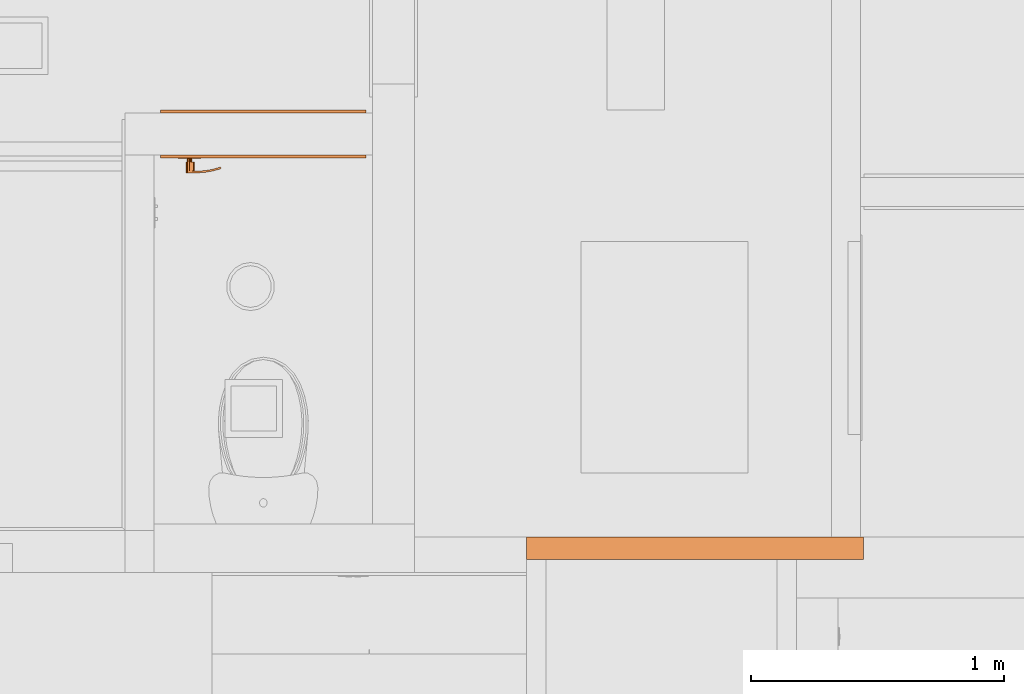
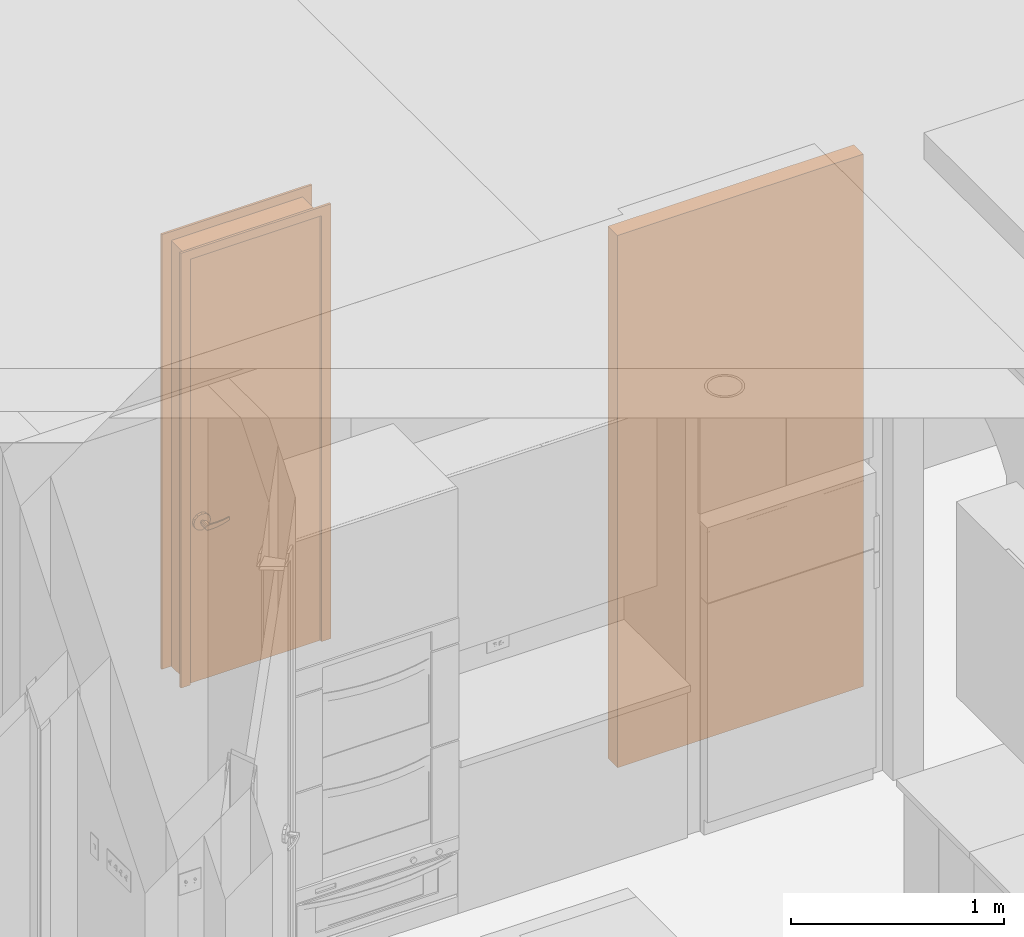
# One storey, part 92 of 103: 2 proxies.
"""IFC2X3 building model written with IfcOpenShell, lengths in inches."""

from ifc_helpers import new_model, entity, si_unit, converted_unit, derived_unit, money_unit, direction, frame, origin_with_axes, place, context, subcontext, project, spatial, open_shell, faceted_brep, surface_model, material, type_object, element, save


model = new_model("IFC2X3")

# Units and contexts
model_context = context("Model", 3, precision=0.00039370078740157, world=origin_with_axes(), true_north=direction((0.0, 1.0)))
plan_context = context("Plan", 3, precision=0.00039370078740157, world=origin_with_axes(), true_north=direction((0.0, 1.0)))
body_context = subcontext(model_context, "Body", "Model", "MODEL_VIEW")
ifc_project = project(units=[converted_unit("LENGTHUNIT", "INCH", entity("IfcPositiveLengthMeasure", 0.0254), si_unit("LENGTHUNIT", "METRE"), dimensions=[1, 0, 0, 0, 0, 0, 0]), converted_unit("AREAUNIT", "SQUARE_FOOT", entity("IfcPositiveLengthMeasure", 0.09290304), si_unit("AREAUNIT", "SQUARE_METRE"), dimensions=[2, 0, 0, 0, 0, 0, 0]), si_unit("PLANEANGLEUNIT", "RADIAN"), si_unit("SOLIDANGLEUNIT", "STERADIAN"), money_unit("USD"), converted_unit("TIMEUNIT", "Year", entity("IfcTimeMeasure", 31557600.0), si_unit("TIMEUNIT", "SECOND"), dimensions=[0, 0, 1, 0, 0, 0, 0]), si_unit("MASSUNIT", "GRAM", prefix="KILO"), si_unit("THERMODYNAMICTEMPERATUREUNIT", "DEGREE_CELSIUS"), si_unit("LUMINOUSINTENSITYUNIT", "LUMEN"), si_unit("ENERGYUNIT", "JOULE", prefix="MEGA"), derived_unit("SPECIFICHEATCAPACITYUNIT", [(si_unit("ENERGYUNIT", "JOULE"), 1), (si_unit("MASSUNIT", "GRAM", prefix="KILO"), -1), (si_unit("THERMODYNAMICTEMPERATUREUNIT", "KELVIN"), -1)])], contexts=[model_context, plan_context])

# Site, building, storey
site_placement = place(None, origin_with_axes())
site = spatial("IfcSite", under=ifc_project, at=site_placement, Name="Site", CompositionType="ELEMENT")
building_placement = place(site_placement, origin_with_axes())
building = spatial("IfcBuilding", under=site, at=building_placement, Name="Building", CompositionType="ELEMENT")
storey_placement = place(building_placement, frame((0.0, 0.0, 127.9999999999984), z_axis=(0.0, 0.0, 1.0), x_axis=(1.0, 0.0, 0.0)))
storey = spatial("IfcBuildingStorey", under=building, at=storey_placement, Name="Second Floor", CompositionType="ELEMENT", Elevation=128.0)

# Proxies
building_element_proxy_type_1 = type_object("IfcBuildingElementProxyType", Name="D1", PredefinedType="NOTDEFINED")
proxy_1_placement = place(storey_placement, frame((85.99999792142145, 460.5009092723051, 0.0), z_axis=(0.0, 0.0, 1.0), x_axis=(-1.0, 0.0, 0.0)))
element("IfcBuildingElementProxy", 1, at=proxy_1_placement, inside=storey, type_object=building_element_proxy_type_1, Name="D-08", context=body_context, shape_type="SurfaceModel", body=[
    faceted_brep([(29.99999999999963, -6.999999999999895, 0.0), (27.99999999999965, -6.999999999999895, 0.0), (27.99999999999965, -6.499999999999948, 0.0), (29.99999999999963, -6.499999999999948, 0.0), (29.99999999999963, -6.999999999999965, 97.99999999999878), (27.99999999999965, -6.999999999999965, 95.9999999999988), (27.99999999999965, -6.499999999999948, 95.9999999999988), (29.99999999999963, -6.499999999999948, 97.99999999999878)], [[[0, 1, 2, 3]], [[0, 4, 5, 1]], [[1, 5, 6, 2]], [[3, 2, 6, 7]], [[4, 0, 3, 7]], [[5, 4, 7, 6]]]),
    faceted_brep([(-1.999999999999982, -6.999999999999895, 97.99999999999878), (0.0, -6.999999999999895, 95.9999999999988), (0.0, -6.499999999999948, 95.9999999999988), (-1.999999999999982, -6.499999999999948, 97.99999999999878), (-1.999999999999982, -6.999999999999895, 0.0), (0.0, -6.999999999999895, 0.0), (0.0, -6.499999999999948, 0.0), (-1.999999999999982, -6.499999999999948, 0.0)], [[[0, 1, 2, 3]], [[0, 4, 5, 1]], [[1, 5, 6, 2]], [[3, 2, 6, 7]], [[4, 0, 3, 7]], [[5, 4, 7, 6]]]),
    faceted_brep([(29.99999999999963, -6.999999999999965, 97.99999999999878), (27.99999999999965, -6.999999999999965, 95.9999999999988), (27.99999999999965, -6.499999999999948, 95.9999999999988), (29.99999999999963, -6.499999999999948, 97.99999999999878), (-1.999999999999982, -6.999999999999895, 97.99999999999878), (0.0, -6.999999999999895, 95.9999999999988), (0.0, -6.499999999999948, 95.9999999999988), (-1.999999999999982, -6.499999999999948, 97.99999999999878)], [[[0, 1, 2, 3]], [[0, 4, 5, 1]], [[1, 5, 6, 2]], [[3, 2, 6, 7]], [[4, 0, 3, 7]], [[5, 4, 7, 6]]]),
    faceted_brep([(29.99999999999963, 0.5000000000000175, 0.0), (29.99999999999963, 0.0, 0.0), (27.99999999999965, 0.0, 0.0), (27.99999999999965, 0.5000000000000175, 0.0), (29.99999999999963, 0.4999999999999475, 97.99999999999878), (29.99999999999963, 0.0, 97.99999999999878), (27.99999999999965, 0.0, 95.9999999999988), (27.99999999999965, 0.4999999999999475, 95.9999999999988)], [[[0, 1, 2, 3]], [[4, 5, 1, 0]], [[1, 5, 6, 2]], [[3, 2, 6, 7]], [[0, 3, 7, 4]], [[7, 6, 5, 4]]]),
    faceted_brep([(-1.999999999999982, 0.4999999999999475, 97.99999999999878), (-1.999999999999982, 0.0, 97.99999999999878), (0.0, 0.0, 95.9999999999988), (0.0, 0.4999999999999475, 95.9999999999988), (-1.999999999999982, 0.5000000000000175, 0.0), (-1.999999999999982, 0.0, 0.0), (0.0, 0.0, 0.0), (0.0, 0.5000000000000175, 0.0)], [[[0, 1, 2, 3]], [[4, 5, 1, 0]], [[1, 5, 6, 2]], [[3, 2, 6, 7]], [[0, 3, 7, 4]], [[7, 6, 5, 4]]]),
    faceted_brep([(29.99999999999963, 0.4999999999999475, 97.99999999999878), (29.99999999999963, 0.0, 97.99999999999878), (27.99999999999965, 0.0, 95.9999999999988), (27.99999999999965, 0.4999999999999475, 95.9999999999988), (-1.999999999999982, 0.4999999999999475, 97.99999999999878), (-1.999999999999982, 0.0, 97.99999999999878), (0.0, 0.0, 95.9999999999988), (0.0, 0.4999999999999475, 95.9999999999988)], [[[0, 1, 2, 3]], [[4, 5, 1, 0]], [[1, 5, 6, 2]], [[3, 2, 6, 7]], [[0, 3, 7, 4]], [[7, 6, 5, 4]]]),
    faceted_brep([(27.99999999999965, 0.0, 0.0), (27.99999999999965, -6.499999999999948, 0.0), (27.49999999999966, -6.499999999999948, 0.0), (27.49999999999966, 0.0, 0.0), (27.99999999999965, 0.0, 95.49999999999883), (27.99999999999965, -6.499999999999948, 95.49999999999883), (27.49999999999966, -6.499999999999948, 95.49999999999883), (27.49999999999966, 0.0, 95.49999999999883)], [[[0, 1, 2, 3]], [[4, 5, 1, 0]], [[1, 5, 6, 2]], [[3, 2, 6, 7]], [[0, 3, 7, 4]], [[7, 6, 5, 4]]]),
    faceted_brep([(0.0, 0.0, 0.0), (0.0, -6.499999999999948, 0.0), (0.0, -6.499999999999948, 95.49999999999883), (0.0, 0.0, 95.49999999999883), (0.5, 0.0, 0.0), (0.5, -6.499999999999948, 0.0), (0.5, -6.499999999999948, 95.49999999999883), (0.5, 0.0, 95.49999999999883)], [[[0, 1, 2, 3]], [[4, 5, 1, 0]], [[1, 5, 6, 2]], [[3, 2, 6, 7]], [[0, 3, 7, 4]], [[7, 6, 5, 4]]]),
    faceted_brep([(27.99999999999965, 0.0, 95.9999999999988), (27.99999999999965, -6.499999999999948, 95.9999999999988), (27.99999999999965, -6.499999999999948, 95.49999999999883), (27.99999999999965, 0.0, 95.49999999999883), (0.0, 0.0, 95.9999999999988), (0.0, -6.499999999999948, 95.9999999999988), (0.0, -6.499999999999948, 95.49999999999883), (0.5, -6.499999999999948, 95.49999999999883), (27.49999999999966, -6.499999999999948, 95.49999999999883), (27.49999999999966, 0.0, 95.49999999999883), (0.5, 0.0, 95.49999999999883), (0.0, 0.0, 95.49999999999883)], [[[0, 1, 2, 3]], [[4, 5, 1, 0]], [[1, 5, 6, 7, 8, 2]], [[3, 2, 8, 9]], [[0, 3, 9, 10, 11, 4]], [[11, 6, 5, 4]], [[10, 7, 6, 11]], [[9, 8, 7, 10]]]),
    surface_model("IfcShellBasedSurfaceModel", [(23.94865528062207, -2.340551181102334, 36.89566929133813), (23.94865528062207, -2.336614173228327, 36.89566929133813), (23.70866141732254, -2.336614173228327, 35.99999999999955), (23.70866141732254, -2.340551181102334, 35.99999999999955), (24.60433070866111, -2.340551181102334, 37.55134471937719), (24.60433070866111, -2.336614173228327, 37.55134471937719), (23.94865528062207, -1.753937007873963, 36.89566929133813), (23.70866141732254, -1.753937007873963, 35.99999999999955), (23.94865528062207, -2.336614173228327, 35.104330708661), (23.94865528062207, -2.340551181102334, 35.104330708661), (24.60433070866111, -2.340551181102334, 34.44865528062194), (25.49999999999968, -2.340551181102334, 34.20866141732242), (26.39566929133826, -2.340551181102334, 34.44865528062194), (27.0513447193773, -2.340551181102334, 35.104330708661), (27.29133858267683, -2.340551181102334, 35.99999999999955), (27.0513447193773, -2.340551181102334, 36.89566929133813), (26.39566929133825, -2.340551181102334, 37.55134471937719), (25.49999999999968, -2.340551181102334, 37.79133858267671), (25.49999999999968, -2.336614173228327, 37.79133858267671), (24.60433070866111, -1.753937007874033, 37.55134471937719), (23.94865528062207, -1.749999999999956, 36.89566929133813), (23.70866141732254, -1.749999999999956, 35.99999999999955), (23.94865528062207, -1.753937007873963, 35.104330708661), (24.60433070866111, -2.336614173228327, 34.44865528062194), (25.49999999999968, -2.336614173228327, 34.20866141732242), (26.39566929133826, -2.336614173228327, 34.44865528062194), (27.0513447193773, -2.336614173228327, 35.104330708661), (27.29133858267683, -2.336614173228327, 35.99999999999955), (27.0513447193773, -2.336614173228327, 36.89566929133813), (26.39566929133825, -2.336614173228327, 37.55134471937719), (25.49999999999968, -1.753937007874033, 37.79133858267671), (24.60433070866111, -1.749999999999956, 37.55134471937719), (23.94865528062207, -1.749999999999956, 35.104330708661), (24.60433070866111, -1.753937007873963, 34.44865528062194), (25.49999999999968, -1.753937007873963, 34.20866141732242), (26.39566929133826, -1.753937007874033, 34.44865528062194), (27.0513447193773, -1.753937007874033, 35.104330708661), (27.29133858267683, -1.753937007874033, 35.99999999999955), (27.0513447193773, -1.753937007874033, 36.89566929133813), (26.39566929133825, -1.753937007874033, 37.55134471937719), (25.49999999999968, -1.749999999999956, 37.79133858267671), (24.60433070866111, -1.749999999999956, 34.44865528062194), (25.49999999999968, -1.749999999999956, 34.20866141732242), (26.39566929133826, -1.749999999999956, 34.44865528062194), (27.0513447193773, -1.749999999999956, 35.104330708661), (27.29133858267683, -1.749999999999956, 35.99999999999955), (27.0513447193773, -1.749999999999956, 36.89566929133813), (26.39566929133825, -1.749999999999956, 37.55134471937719)], [open_shell([[[0, 1, 2, 3]], [[4, 5, 1, 0]], [[1, 6, 7, 2]], [[3, 2, 8, 9]], [[3, 9, 10, 11, 12, 13, 14, 15, 16, 17, 4, 0]], [[17, 18, 5, 4]], [[5, 19, 6, 1]], [[6, 20, 21, 7]], [[2, 7, 22, 8]], [[9, 8, 23, 10]], [[10, 23, 24, 11]], [[11, 24, 25, 12]], [[12, 25, 26, 13]], [[13, 26, 27, 14]], [[14, 27, 28, 15]], [[15, 28, 29, 16]], [[16, 29, 18, 17]], [[18, 30, 19, 5]], [[19, 31, 20, 6]], [[7, 21, 32, 22]], [[8, 22, 33, 23]], [[23, 33, 34, 24]], [[24, 34, 35, 25]], [[25, 35, 36, 26]], [[26, 36, 37, 27]], [[27, 37, 38, 28]], [[28, 38, 39, 29]], [[29, 39, 30, 18]], [[30, 40, 31, 19]], [[22, 32, 41, 33]], [[33, 41, 42, 34]], [[34, 42, 43, 35]], [[35, 43, 44, 36]], [[36, 44, 45, 37]], [[37, 45, 46, 38]], [[38, 46, 47, 39]], [[39, 47, 40, 30]]])]),
    faceted_brep([(25.69685039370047, -2.340551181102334, 35.65904511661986), (25.49999999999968, -2.340551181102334, 35.60629921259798), (25.30314960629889, -2.340551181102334, 35.65904511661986), (25.15904511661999, -2.340551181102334, 35.80314960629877), (25.10629921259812, -2.340551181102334, 35.99999999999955), (25.15904511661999, -2.340551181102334, 36.19685039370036), (25.30314960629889, -2.340551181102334, 36.34095488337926), (25.49999999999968, -2.340551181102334, 36.39370078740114), (25.69685039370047, -2.340551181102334, 36.34095488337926), (25.84095488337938, -2.340551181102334, 36.19685039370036), (25.89370078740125, -2.340551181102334, 35.99999999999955), (25.84095488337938, -2.340551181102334, 35.80314960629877), (25.69685039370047, -2.852362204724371, 35.65904511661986), (25.49999999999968, -2.852362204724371, 35.60629921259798), (25.30314960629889, -2.852362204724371, 35.65904511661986), (25.15904511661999, -2.852362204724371, 35.80314960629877), (25.10629921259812, -2.852362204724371, 35.99999999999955), (25.15904511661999, -2.852362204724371, 36.19685039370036), (25.30314960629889, -2.852362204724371, 36.34095488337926), (25.49999999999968, -2.852362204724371, 36.39370078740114), (25.69685039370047, -2.852362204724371, 36.34095488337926), (25.84095488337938, -2.852362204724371, 36.19685039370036), (25.89370078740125, -2.852362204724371, 35.99999999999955), (25.84095488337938, -2.852362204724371, 35.80314960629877)], [[[0, 1, 2, 3, 4, 5, 6, 7, 8, 9, 10, 11]], [[0, 12, 13, 1]], [[1, 13, 14, 2]], [[2, 14, 15, 3]], [[3, 15, 16, 4]], [[4, 16, 17, 5]], [[5, 17, 18, 6]], [[6, 18, 19, 7]], [[7, 19, 20, 8]], [[8, 20, 21, 9]], [[9, 21, 22, 10]], [[10, 22, 23, 11]], [[11, 23, 12, 0]], [[12, 23, 22, 21, 20, 19, 18, 17, 16, 15, 14, 13]]]),
    faceted_brep([(25.49999999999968, -2.852362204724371, 36.55118110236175), (25.49999999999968, -4.269685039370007, 36.55118110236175), (25.77559055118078, -4.269685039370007, 36.47733683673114), (25.77559055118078, -2.852362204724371, 36.47733683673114), (25.10629921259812, -2.852362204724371, 36.47244094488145), (25.10629921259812, -4.269685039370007, 36.47244094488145), (24.87352117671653, -4.269685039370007, 36.35358914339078), (24.73705189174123, -4.269685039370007, 36.13068221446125), (24.73705189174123, -4.269685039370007, 35.86931778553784), (24.87352117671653, -4.269685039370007, 35.64641085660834), (25.10629921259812, -4.269685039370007, 35.52755905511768), (25.49999999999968, -4.269685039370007, 35.44881889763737), (25.77559055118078, -4.269685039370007, 35.52266316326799), (25.97733683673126, -4.269685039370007, 35.72440944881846), (26.05118110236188, -4.269685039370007, 35.99999999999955), (25.97733683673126, -4.269685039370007, 36.27559055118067), (25.97733683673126, -2.852362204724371, 36.27559055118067), (26.05118110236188, -2.852362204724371, 35.99999999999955), (25.97733683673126, -2.852362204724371, 35.72440944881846), (25.77559055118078, -2.852362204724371, 35.52266316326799), (25.49999999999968, -2.852362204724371, 35.44881889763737), (25.10629921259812, -2.852362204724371, 35.52755905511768), (24.87352117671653, -2.852362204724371, 35.64641085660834), (24.73705189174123, -2.852362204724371, 35.86931778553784), (24.73705189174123, -2.852362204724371, 36.13068221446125), (24.87352117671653, -2.852362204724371, 36.35358914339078)], [[[0, 1, 2, 3]], [[4, 5, 1, 0]], [[1, 5, 6, 7, 8, 9, 10, 11, 12, 13, 14, 15, 2]], [[3, 2, 15, 16]], [[0, 3, 16, 17, 18, 19, 20, 21, 22, 23, 24, 25, 4]], [[25, 6, 5, 4]], [[24, 7, 6, 25]], [[23, 8, 7, 24]], [[22, 9, 8, 23]], [[21, 10, 9, 22]], [[20, 11, 10, 21]], [[19, 12, 11, 20]], [[18, 13, 12, 19]], [[17, 14, 13, 18]], [[16, 15, 14, 17]]]),
    surface_model("IfcShellBasedSurfaceModel", [(25.49999999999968, -4.269685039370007, 36.55118110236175), (25.49999999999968, -4.545275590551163, 36.55118110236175), (25.77559055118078, -4.545275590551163, 36.47733683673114), (25.77559055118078, -4.269685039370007, 36.47733683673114), (24.51574803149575, -4.269685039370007, 36.55118110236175), (24.51574803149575, -4.545275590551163, 36.55118110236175), (24.51574803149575, -4.545275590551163, 35.44881889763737), (25.49999999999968, -4.545275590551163, 35.44881889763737), (25.77559055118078, -4.545275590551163, 35.52266316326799), (25.97733683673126, -4.545275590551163, 35.72440944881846), (26.05118110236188, -4.545275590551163, 35.99999999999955), (25.97733683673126, -4.545275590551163, 36.27559055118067), (25.97733683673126, -4.269685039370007, 36.27559055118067), (26.05118110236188, -4.269685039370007, 35.99999999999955), (25.97733683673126, -4.269685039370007, 35.72440944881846), (25.77559055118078, -4.269685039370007, 35.52266316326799), (25.49999999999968, -4.269685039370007, 35.44881889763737), (24.51574803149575, -4.269685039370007, 35.44881889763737)], [open_shell([[[0, 1, 2, 3]], [[4, 5, 1, 0]], [[1, 5, 6, 7, 8, 9, 10, 11, 2]], [[3, 2, 11, 12]], [[0, 3, 12, 13, 14, 15, 16, 17, 4]], [[16, 7, 6, 17]], [[15, 8, 7, 16]], [[14, 9, 8, 15]], [[13, 10, 9, 14]], [[12, 11, 10, 13]]])]),
    surface_model("IfcShellBasedSurfaceModel", [(24.51574803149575, -4.269685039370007, 35.44881889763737), (23.98803506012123, -4.545275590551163, 35.47974008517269), (24.00006760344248, -4.269685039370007, 35.47974008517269), (24.51574803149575, -4.545275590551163, 35.44881889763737), (22.93662533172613, -4.453289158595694, 35.54158246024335), (24.00006760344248, -4.269685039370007, 36.52025991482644), (24.51574803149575, -4.269685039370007, 36.55118110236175), (24.51574803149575, -4.545275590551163, 36.55118110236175), (23.98803506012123, -4.545275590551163, 36.52025991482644), (22.93662533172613, -4.453289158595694, 36.45841753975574), (22.97263138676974, -4.179796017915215, 35.54158246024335), (22.97263138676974, -4.179796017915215, 36.45841753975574), (21.89723368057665, -4.270016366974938, 36.39657516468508), (21.89723368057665, -4.270016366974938, 35.60342483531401), (21.95693921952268, -4.000702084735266, 35.60342483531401), (21.95693921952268, -4.000702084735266, 36.39657516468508), (20.87777050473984, -3.996852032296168, 36.33473278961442), (20.87777050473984, -3.996852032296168, 35.66526721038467), (20.96072113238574, -3.733766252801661, 35.66526721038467), (20.96072113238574, -3.733766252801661, 36.33473278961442), (20.56058250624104, -3.881405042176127, 36.3149606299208), (20.56058250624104, -3.881405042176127, 35.68503937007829), (20.65076543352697, -3.620951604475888, 35.68503937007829), (20.65076543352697, -3.620951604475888, 36.3149606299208)], [open_shell([[[0, 1, 2]], [[0, 3, 1]], [[2, 1, 4]], [[0, 2, 5, 6]], [[3, 7, 8, 1]], [[1, 8, 9, 4]], [[2, 4, 10]], [[2, 10, 11, 5]], [[5, 7, 6]], [[5, 8, 7]], [[11, 9, 8]], [[4, 9, 12, 13]], [[10, 4, 13]], [[10, 14, 15, 11]], [[11, 8, 5]], [[15, 9, 11]], [[15, 12, 9]], [[13, 12, 16, 17]], [[10, 13, 14]], [[14, 18, 19, 15]], [[19, 12, 15]], [[19, 16, 12]], [[17, 16, 20, 21]], [[14, 13, 17]], [[14, 17, 18]], [[18, 22, 23, 19]], [[23, 16, 19]], [[23, 20, 16]], [[22, 21, 20, 23]], [[18, 17, 21]], [[18, 21, 22]]])]),
    surface_model("IfcShellBasedSurfaceModel", [(23.94865528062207, 0.5905511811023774, 36.89566929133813), (23.70866141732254, 0.5905511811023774, 35.99999999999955), (23.70866141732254, 0.5866141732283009, 35.99999999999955), (23.94865528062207, 0.5866141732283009, 36.89566929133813), (24.60433070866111, 0.5905511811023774, 37.55134471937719), (25.49999999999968, 0.5905511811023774, 37.79133858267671), (26.39566929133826, 0.5905511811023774, 37.55134471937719), (27.0513447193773, 0.5905511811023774, 36.89566929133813), (27.29133858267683, 0.5905511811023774, 35.99999999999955), (27.0513447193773, 0.5905511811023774, 35.104330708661), (26.39566929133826, 0.5905511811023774, 34.44865528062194), (25.49999999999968, 0.5905511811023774, 34.20866141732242), (24.60433070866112, 0.5905511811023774, 34.44865528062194), (23.94865528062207, 0.5905511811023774, 35.104330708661), (23.94865528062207, 0.5866141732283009, 35.104330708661), (23.70866141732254, 0.003937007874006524, 35.99999999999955), (23.94865528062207, 0.003937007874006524, 36.89566929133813), (24.60433070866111, 0.5866141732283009, 37.55134471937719), (25.49999999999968, 0.5866141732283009, 37.79133858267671), (26.39566929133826, 0.5866141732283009, 37.55134471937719), (27.0513447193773, 0.5866141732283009, 36.89566929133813), (27.29133858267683, 0.5866141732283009, 35.99999999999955), (27.0513447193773, 0.5866141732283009, 35.104330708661), (26.39566929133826, 0.5866141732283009, 34.44865528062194), (25.49999999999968, 0.5866141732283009, 34.20866141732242), (24.60433070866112, 0.5866141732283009, 34.44865528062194), (23.94865528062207, 0.003937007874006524, 35.104330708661), (23.70866141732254, 0.0, 35.99999999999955), (23.94865528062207, 0.0, 36.89566929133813), (24.60433070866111, 0.003937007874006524, 37.55134471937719), (25.49999999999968, 0.003937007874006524, 37.79133858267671), (26.39566929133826, 0.003937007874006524, 37.55134471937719), (27.0513447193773, 0.003937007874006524, 36.89566929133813), (27.29133858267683, 0.003937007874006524, 35.99999999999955), (27.0513447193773, 0.003937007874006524, 35.104330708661), (26.39566929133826, 0.003937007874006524, 34.44865528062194), (25.49999999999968, 0.003937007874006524, 34.20866141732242), (24.60433070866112, 0.003937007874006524, 34.44865528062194), (23.94865528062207, 0.0, 35.104330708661), (24.60433070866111, 0.0, 37.55134471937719), (25.49999999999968, 0.0, 37.79133858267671), (26.39566929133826, 0.0, 37.55134471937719), (27.0513447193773, 0.0, 36.89566929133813), (27.29133858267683, 0.0, 35.99999999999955), (27.0513447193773, 0.0, 35.104330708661), (26.39566929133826, 0.0, 34.44865528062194), (25.49999999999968, 0.0, 34.20866141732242), (24.60433070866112, 0.0, 34.44865528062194)], [open_shell([[[0, 1, 2, 3]], [[1, 0, 4, 5, 6, 7, 8, 9, 10, 11, 12, 13]], [[1, 13, 14, 2]], [[3, 2, 15, 16]], [[4, 0, 3, 17]], [[5, 4, 17, 18]], [[6, 5, 18, 19]], [[7, 6, 19, 20]], [[8, 7, 20, 21]], [[9, 8, 21, 22]], [[10, 9, 22, 23]], [[11, 10, 23, 24]], [[12, 11, 24, 25]], [[13, 12, 25, 14]], [[2, 14, 26, 15]], [[16, 15, 27, 28]], [[17, 3, 16, 29]], [[18, 17, 29, 30]], [[19, 18, 30, 31]], [[20, 19, 31, 32]], [[21, 20, 32, 33]], [[22, 21, 33, 34]], [[23, 22, 34, 35]], [[24, 23, 35, 36]], [[25, 24, 36, 37]], [[14, 25, 37, 26]], [[15, 26, 38, 27]], [[29, 16, 28, 39]], [[30, 29, 39, 40]], [[31, 30, 40, 41]], [[32, 31, 41, 42]], [[33, 32, 42, 43]], [[34, 33, 43, 44]], [[35, 34, 44, 45]], [[36, 35, 45, 46]], [[37, 36, 46, 47]], [[26, 37, 47, 38]]])]),
    faceted_brep([(25.69685039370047, 0.5905511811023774, 35.65904511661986), (25.84095488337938, 0.5905511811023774, 35.80314960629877), (25.89370078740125, 0.5905511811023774, 35.99999999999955), (25.84095488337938, 0.5905511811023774, 36.19685039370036), (25.69685039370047, 0.5905511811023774, 36.34095488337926), (25.49999999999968, 0.5905511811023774, 36.39370078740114), (25.30314960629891, 0.5905511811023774, 36.34095488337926), (25.15904511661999, 0.5905511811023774, 36.19685039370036), (25.10629921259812, 0.5905511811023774, 35.99999999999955), (25.15904511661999, 0.5905511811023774, 35.80314960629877), (25.30314960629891, 0.5905511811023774, 35.65904511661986), (25.49999999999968, 0.5905511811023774, 35.60629921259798), (25.69685039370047, 1.102362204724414, 35.65904511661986), (25.84095488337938, 1.102362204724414, 35.80314960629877), (25.89370078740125, 1.102362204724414, 35.99999999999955), (25.84095488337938, 1.102362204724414, 36.19685039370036), (25.69685039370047, 1.102362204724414, 36.34095488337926), (25.49999999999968, 1.102362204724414, 36.39370078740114), (25.30314960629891, 1.102362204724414, 36.34095488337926), (25.15904511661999, 1.102362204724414, 36.19685039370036), (25.10629921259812, 1.102362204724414, 35.99999999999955), (25.15904511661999, 1.102362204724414, 35.80314960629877), (25.30314960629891, 1.102362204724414, 35.65904511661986), (25.49999999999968, 1.102362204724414, 35.60629921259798)], [[[0, 1, 2, 3, 4, 5, 6, 7, 8, 9, 10, 11]], [[1, 0, 12, 13]], [[2, 1, 13, 14]], [[3, 2, 14, 15]], [[4, 3, 15, 16]], [[5, 4, 16, 17]], [[6, 5, 17, 18]], [[7, 6, 18, 19]], [[8, 7, 19, 20]], [[9, 8, 20, 21]], [[10, 9, 21, 22]], [[11, 10, 22, 23]], [[0, 11, 23, 12]], [[12, 23, 22, 21, 20, 19, 18, 17, 16, 15, 14, 13]]]),
    faceted_brep([(25.49999999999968, 1.102362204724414, 36.55118110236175), (25.77559055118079, 1.102362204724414, 36.47733683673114), (25.77559055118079, 2.51968503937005, 36.47733683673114), (25.49999999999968, 2.51968503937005, 36.55118110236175), (25.10629921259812, 1.102362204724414, 36.47244094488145), (24.87352117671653, 1.102362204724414, 36.35358914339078), (24.73705189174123, 1.102362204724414, 36.13068221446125), (24.73705189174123, 1.102362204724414, 35.86931778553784), (24.87352117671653, 1.102362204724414, 35.64641085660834), (25.10629921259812, 1.102362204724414, 35.52755905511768), (25.49999999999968, 1.102362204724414, 35.44881889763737), (25.77559055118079, 1.102362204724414, 35.52266316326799), (25.97733683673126, 1.102362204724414, 35.72440944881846), (26.05118110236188, 1.102362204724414, 35.99999999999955), (25.97733683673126, 1.102362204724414, 36.27559055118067), (25.97733683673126, 2.51968503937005, 36.27559055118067), (26.05118110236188, 2.51968503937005, 35.99999999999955), (25.97733683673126, 2.51968503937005, 35.72440944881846), (25.77559055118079, 2.51968503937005, 35.52266316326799), (25.49999999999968, 2.51968503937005, 35.44881889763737), (25.10629921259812, 2.51968503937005, 35.52755905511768), (24.87352117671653, 2.51968503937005, 35.64641085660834), (24.73705189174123, 2.51968503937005, 35.86931778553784), (24.73705189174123, 2.51968503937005, 36.13068221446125), (24.87352117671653, 2.51968503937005, 36.35358914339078), (25.10629921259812, 2.51968503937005, 36.47244094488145)], [[[0, 1, 2, 3]], [[0, 4, 5, 6, 7, 8, 9, 10, 11, 12, 13, 14, 1]], [[1, 14, 15, 2]], [[3, 2, 15, 16, 17, 18, 19, 20, 21, 22, 23, 24, 25]], [[4, 0, 3, 25]], [[5, 4, 25, 24]], [[6, 5, 24, 23]], [[7, 6, 23, 22]], [[8, 7, 22, 21]], [[9, 8, 21, 20]], [[10, 9, 20, 19]], [[11, 10, 19, 18]], [[12, 11, 18, 17]], [[13, 12, 17, 16]], [[14, 13, 16, 15]]]),
    surface_model("IfcShellBasedSurfaceModel", [(25.49999999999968, 2.51968503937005, 36.55118110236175), (25.77559055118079, 2.51968503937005, 36.47733683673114), (25.77559055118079, 2.795275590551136, 36.47733683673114), (25.49999999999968, 2.795275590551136, 36.55118110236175), (24.51574803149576, 2.51968503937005, 36.55118110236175), (24.51574803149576, 2.51968503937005, 35.44881889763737), (25.49999999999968, 2.51968503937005, 35.44881889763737), (25.77559055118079, 2.51968503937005, 35.52266316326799), (25.97733683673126, 2.51968503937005, 35.72440944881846), (26.05118110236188, 2.51968503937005, 35.99999999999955), (25.97733683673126, 2.51968503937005, 36.27559055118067), (25.97733683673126, 2.795275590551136, 36.27559055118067), (26.05118110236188, 2.795275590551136, 35.99999999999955), (25.97733683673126, 2.795275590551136, 35.72440944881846), (25.77559055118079, 2.795275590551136, 35.52266316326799), (25.49999999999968, 2.795275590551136, 35.44881889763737), (24.51574803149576, 2.795275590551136, 35.44881889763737), (24.51574803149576, 2.795275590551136, 36.55118110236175)], [open_shell([[[0, 1, 2, 3]], [[0, 4, 5, 6, 7, 8, 9, 10, 1]], [[1, 10, 11, 2]], [[3, 2, 11, 12, 13, 14, 15, 16, 17]], [[4, 0, 3, 17]], [[6, 5, 16, 15]], [[7, 6, 15, 14]], [[8, 7, 14, 13]], [[9, 8, 13, 12]], [[10, 9, 12, 11]]])]),
    surface_model("IfcShellBasedSurfaceModel", [(24.51574803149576, 2.51968503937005, 35.44881889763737), (24.00006760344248, 2.51968503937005, 35.47974008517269), (23.98803506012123, 2.795275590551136, 35.47974008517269), (24.51574803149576, 2.51968503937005, 36.55118110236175), (24.00006760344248, 2.51968503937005, 36.52025991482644), (22.93662533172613, 2.703289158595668, 35.54158246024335), (24.51574803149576, 2.795275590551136, 35.44881889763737), (24.51574803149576, 2.795275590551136, 36.55118110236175), (22.97263138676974, 2.429796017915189, 36.45841753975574), (22.97263138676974, 2.429796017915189, 35.54158246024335), (22.93662533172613, 2.703289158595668, 36.45841753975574), (23.98803506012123, 2.795275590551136, 36.52025991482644), (21.95693921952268, 2.250702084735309, 36.39657516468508), (21.95693921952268, 2.250702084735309, 35.60342483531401), (21.89723368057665, 2.520016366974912, 35.60342483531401), (21.89723368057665, 2.520016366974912, 36.39657516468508), (20.96072113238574, 1.983766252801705, 36.33473278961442), (20.96072113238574, 1.983766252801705, 35.66526721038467), (20.87777050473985, 2.246852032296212, 35.66526721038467), (20.87777050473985, 2.246852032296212, 36.33473278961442), (20.65076543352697, 1.870951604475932, 36.3149606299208), (20.65076543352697, 1.870951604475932, 35.68503937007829), (20.56058250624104, 2.131405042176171, 35.68503937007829), (20.56058250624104, 2.131405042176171, 36.3149606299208)], [open_shell([[[0, 1, 2]], [[0, 3, 4, 1]], [[1, 5, 2]], [[0, 2, 6]], [[4, 3, 7]], [[1, 4, 8, 9]], [[1, 9, 5]], [[2, 5, 10, 11]], [[6, 2, 11, 7]], [[4, 7, 11]], [[8, 4, 11]], [[9, 8, 12, 13]], [[9, 14, 5]], [[5, 14, 15, 10]], [[8, 11, 10]], [[12, 8, 10]], [[13, 12, 16, 17]], [[9, 13, 14]], [[14, 18, 19, 15]], [[12, 10, 15]], [[16, 12, 15]], [[17, 16, 20, 21]], [[13, 17, 18]], [[13, 18, 14]], [[18, 22, 23, 19]], [[16, 15, 19]], [[20, 16, 19]], [[21, 20, 23, 22]], [[17, 21, 22]], [[17, 22, 18]], [[20, 19, 23]]])]),
    faceted_brep([(27.4606299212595, -1.749999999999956, 0.03937007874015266), (27.4606299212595, -1.749999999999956, 95.46062992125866), (0.5393700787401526, -1.749999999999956, 95.46062992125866), (0.5393700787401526, -1.749999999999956, 0.03937007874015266), (27.4606299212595, 0.0, 0.03937007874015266), (27.4606299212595, 0.0, 95.46062992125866), (0.5393700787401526, 0.0, 95.46062992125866), (0.5393700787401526, 0.0, 0.03937007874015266)], [[[0, 1, 2, 3]], [[4, 5, 1, 0]], [[2, 1, 5, 6]], [[3, 2, 6, 7]], [[7, 4, 0, 3]], [[7, 6, 5, 4]]]),
    faceted_brep([(0.5, 0.0, 0.0), (27.49999999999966, 0.0, 0.0), (27.49999999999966, -1.749999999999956, 0.0), (0.5, -1.749999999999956, 0.0), (0.5, 0.0, 95.49999999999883), (27.49999999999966, 0.0, 95.49999999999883), (0.5393700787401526, 0.0, 0.03937007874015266), (27.4606299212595, 0.0, 0.03937007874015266), (27.4606299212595, 0.0, 95.46062992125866), (0.5393700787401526, 0.0, 95.46062992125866), (27.49999999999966, -1.749999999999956, 95.49999999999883), (0.5, -1.749999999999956, 95.49999999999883), (0.5393700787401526, -1.749999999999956, 0.03937007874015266), (0.5393700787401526, -1.749999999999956, 95.46062992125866), (27.4606299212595, -1.749999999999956, 95.46062992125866), (27.4606299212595, -1.749999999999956, 0.03937007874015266)], [[[0, 1, 2, 3]], [[0, 4, 5, 1], [6, 7, 8, 9]], [[1, 5, 10, 2]], [[3, 2, 10, 11], [12, 13, 14, 15]], [[4, 0, 3, 11]], [[5, 4, 11, 10]], [[7, 6, 12, 15]], [[8, 7, 15, 14]], [[9, 8, 14, 13]], [[6, 9, 13, 12]]]),
])
ifc_material = material(Name="Generic - Structural")
building_element_proxy_type_2 = type_object("IfcBuildingElementProxyType", Name="Generic - Structural 3 1/2\"", PredefinedType="NOTDEFINED")
proxy_2_placement = place(storey_placement, frame((113.0000174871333, 401.0009095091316, 0.0), z_axis=(0.0, 0.0, 1.0), x_axis=(1.0, 0.0, 0.0)))
element("IfcBuildingElementProxy", 2, at=proxy_2_placement, inside=storey, type_object=building_element_proxy_type_2, material=ifc_material, Name="SW - 014", context=body_context, shape_type="Brep", body=[
    faceted_brep([(0.0, -3.499999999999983, 0.0), (0.0, 0.0, 0.0), (52.43699038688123, 0.0, 0.0), (52.43699038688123, -3.499999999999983, 0.0), (0.0, -3.499999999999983, 119.9999999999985), (0.0, 0.0, 119.9999999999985), (52.43699038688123, 0.0, 119.9999999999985), (52.43699038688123, -3.499999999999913, 119.9999999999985)], [[[0, 1, 2, 3]], [[4, 5, 1, 0]], [[1, 5, 6, 2]], [[7, 3, 2, 6]], [[4, 0, 3, 7]], [[5, 4, 7, 6]]]),
])

save(model, "model.ifc")
